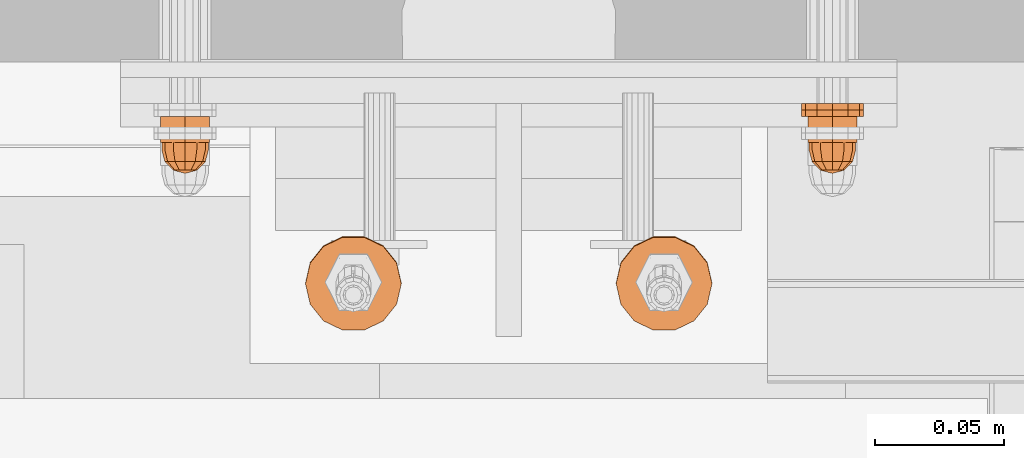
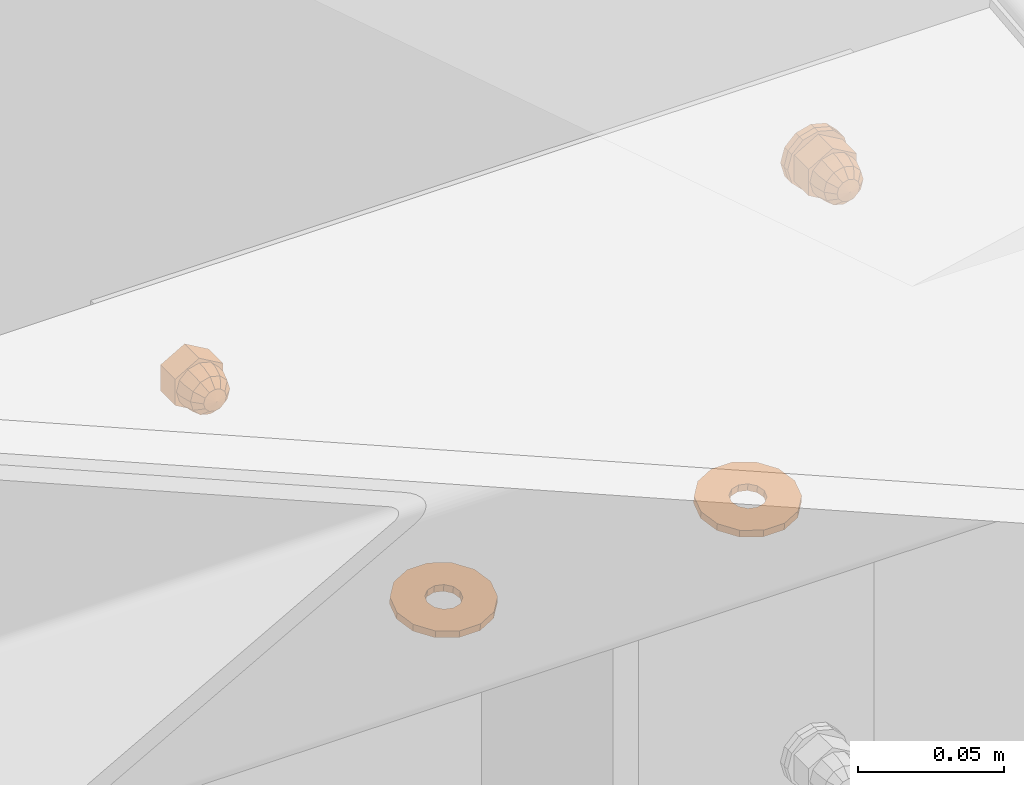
# One storey, part 150 of 162: 6 proxies.
"""IFC2X3 building model written with IfcOpenShell, lengths in millimetres."""

from ifc_helpers import new_model, entity, si_unit, converted_unit, origin_with_axes, place, context, project, spatial, faceted_brep, material, element, save


model = new_model("IFC2X3")

# Units and contexts
model_context = context("Model", 3, precision=1e-09, world=origin_with_axes())
ifc_project = project(units=[si_unit("LENGTHUNIT", "METRE", prefix="MILLI"), si_unit("AREAUNIT", "SQUARE_METRE"), si_unit("VOLUMEUNIT", "CUBIC_METRE"), converted_unit("PLANEANGLEUNIT", "DEGREE", entity("IfcPlaneAngleMeasure", 0.01745329), si_unit("PLANEANGLEUNIT", "RADIAN"), dimensions=[0, 0, 0, 0, 0, 0, 0])], contexts=[model_context])

# Site, building, storey
site_placement = place(None, origin_with_axes())
site = spatial("IfcSite", under=ifc_project, at=site_placement, Name="Hermannstra?e 1a, 60318 Frankfurt", CompositionType="ELEMENT")
building_placement = place(site_placement, origin_with_axes())
building = spatial("IfcBuilding", under=site, at=building_placement, Name="Struktur 1", CompositionType="ELEMENT")
storey_placement = place(building_placement, origin_with_axes())
storey = spatial("IfcBuildingStorey", under=building, at=storey_placement, Name="Default Storey", CompositionType="ELEMENT", Elevation=0.0)

# Proxies
ifc_material_1 = material(Name="A4")
proxy_1_placement = place(None, origin_with_axes())
element("IfcBuildingElementProxy", 1, at=proxy_1_placement, inside=storey, material=ifc_material_1, ObjectType="-", context=model_context, shape_type="Brep", body=[
    faceted_brep([(5442.309364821, 2704.609373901, 17466.999), (5442.309364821, 2714.609373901, 17466.999), (5443.113212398, 2714.609373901, 17469.999), (5443.113212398, 2704.609373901, 17469.999), (5445.309364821, 2714.609373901, 17472.195152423), (5445.309364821, 2704.609373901, 17472.195152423), (5443.113212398, 2704.609373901, 17463.999), (5443.113212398, 2714.609373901, 17463.999), (5438.82949554, 2714.609373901, 17461.525794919), (5438.82949554, 2714.609373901, 17472.472205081), (5448.309364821, 2714.609373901, 17477.945410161), (5457.789234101, 2714.609373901, 17472.472205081), (5457.789234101, 2714.609373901, 17461.525794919), (5448.309364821, 2714.609373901, 17456.052589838), (5445.309364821, 2714.609373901, 17461.802847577), (5448.309364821, 2714.609373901, 17460.999), (5451.309364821, 2714.609373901, 17461.802847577), (5453.505517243, 2714.609373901, 17463.999), (5454.309364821, 2714.609373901, 17466.999), (5453.505517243, 2714.609373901, 17469.999), (5451.309364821, 2714.609373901, 17472.195152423), (5448.309364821, 2714.609373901, 17472.999), (5438.82949554, 2704.609373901, 17461.525794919), (5448.309364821, 2704.609373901, 17456.052589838), (5457.789234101, 2704.609373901, 17461.525794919), (5457.789234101, 2704.609373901, 17472.472205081), (5448.309364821, 2704.609373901, 17477.945410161), (5438.82949554, 2704.609373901, 17472.472205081), (5445.309364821, 2704.609373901, 17461.802847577), (5448.309364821, 2704.609373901, 17472.999), (5448.309364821, 2704.609373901, 17460.999), (5451.309364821, 2704.609373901, 17472.195152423), (5451.309364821, 2704.609373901, 17461.802847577), (5453.505517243, 2704.609373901, 17469.999), (5453.505517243, 2704.609373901, 17463.999), (5454.309364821, 2704.609373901, 17466.999)], [[[0, 1, 2, 3]], [[3, 2, 4, 5]], [[1, 0, 6, 7]], [[8, 9, 10, 11, 12, 13], [7, 14, 15, 16, 17, 18, 19, 20, 21, 4, 2, 1]], [[22, 23, 24, 25, 26, 27]], [[7, 6, 28, 14]], [[22, 27, 9, 8]], [[5, 4, 21, 29]], [[10, 9, 27, 26]], [[14, 28, 30, 15]], [[23, 22, 8, 13]], [[29, 21, 20, 31]], [[11, 10, 26, 25]], [[15, 30, 32, 16]], [[24, 23, 13, 12]], [[31, 20, 19, 33]], [[25, 24, 12, 11]], [[16, 32, 34, 17]], [[33, 19, 18, 35]], [[17, 34, 35, 18]]]),
    faceted_brep([(5448.309364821, 2701.609373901, 17457.999), (5448.309364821, 2704.609373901, 17457.999), (5452.809364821, 2704.609373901, 17459.204771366), (5452.809364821, 2701.609373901, 17459.204771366), (5443.809364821, 2701.609373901, 17459.204771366), (5443.809364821, 2704.609373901, 17459.204771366), (5443.809364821, 2701.609373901, 17474.793228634), (5440.515136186, 2701.609373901, 17471.499), (5439.309364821, 2701.609373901, 17466.999), (5440.515136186, 2701.609373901, 17462.499), (5456.103593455, 2701.609373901, 17462.499), (5457.309364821, 2701.609373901, 17466.999), (5456.103593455, 2701.609373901, 17471.499), (5452.809364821, 2701.609373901, 17474.793228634), (5448.309364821, 2701.609373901, 17475.999), (5452.809364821, 2704.609373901, 17474.793228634), (5456.103593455, 2704.609373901, 17471.499), (5457.309364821, 2704.609373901, 17466.999), (5456.103593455, 2704.609373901, 17462.499), (5440.515136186, 2704.609373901, 17462.499), (5439.309364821, 2704.609373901, 17466.999), (5440.515136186, 2704.609373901, 17471.499), (5443.809364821, 2704.609373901, 17474.793228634), (5448.309364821, 2704.609373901, 17475.999)], [[[0, 1, 2, 3]], [[1, 0, 4, 5]], [[6, 7, 8, 9, 4, 0, 3, 10, 11, 12, 13, 14]], [[15, 16, 17, 18, 2, 1, 5, 19, 20, 21, 22, 23]], [[3, 2, 18, 10]], [[5, 4, 9, 19]], [[10, 18, 17, 11]], [[19, 9, 8, 20]], [[22, 6, 14, 23]], [[7, 21, 20, 8]], [[6, 22, 21, 7]], [[11, 17, 16, 12]], [[23, 14, 13, 15]], [[12, 16, 15, 13]]]),
    faceted_brep([(5441.559364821, 2697.109373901, 17463.101885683), (5440.515136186, 2701.609373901, 17462.499), (5443.809364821, 2701.609373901, 17459.204771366), (5444.412250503, 2697.109373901, 17460.249), (5452.809364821, 2701.609373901, 17474.793228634), (5456.103593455, 2701.609373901, 17471.499), (5457.309364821, 2701.609373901, 17466.999), (5456.103593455, 2701.609373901, 17462.499), (5452.809364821, 2701.609373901, 17459.204771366), (5448.309364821, 2701.609373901, 17457.999), (5439.309364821, 2701.609373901, 17466.999), (5440.515136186, 2701.609373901, 17471.499), (5443.809364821, 2701.609373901, 17474.793228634), (5448.309364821, 2701.609373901, 17475.999), (5448.309364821, 2697.109373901, 17459.204771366), (5443.809364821, 2693.815145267, 17466.999), (5440.515136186, 2697.109373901, 17466.999), (5444.412250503, 2693.815145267, 17464.749), (5452.206479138, 2697.109373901, 17460.249), (5446.059364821, 2693.815145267, 17463.101885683), (5444.412250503, 2693.815145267, 17469.249), (5441.559364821, 2697.109373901, 17470.896114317), (5448.309364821, 2693.815145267, 17462.499), (5448.309364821, 2692.609373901, 17466.999), (5446.059364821, 2693.815145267, 17470.896114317), (5444.412250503, 2697.109373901, 17473.749), (5448.309364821, 2697.109373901, 17474.793228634), (5455.059364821, 2697.109373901, 17463.101885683), (5450.559364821, 2693.815145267, 17463.101885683), (5448.309364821, 2693.815145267, 17471.499), (5452.206479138, 2697.109373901, 17473.749), (5450.559364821, 2693.815145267, 17470.896114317), (5456.103593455, 2697.109373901, 17466.999), (5452.206479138, 2693.815145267, 17464.749), (5455.059364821, 2697.109373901, 17470.896114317), (5452.206479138, 2693.815145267, 17469.249), (5452.809364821, 2693.815145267, 17466.999)], [[[0, 1, 2, 3]], [[4, 5, 6, 7, 8, 9, 2, 1, 10, 11, 12, 13]], [[3, 2, 9, 14]], [[15, 16, 0, 17]], [[1, 0, 16, 10]], [[14, 9, 8, 18]], [[17, 0, 3, 19]], [[16, 15, 20, 21]], [[19, 3, 14, 22]], [[17, 23, 15]], [[24, 25, 21, 20]], [[15, 23, 20]], [[12, 25, 26, 13]], [[11, 21, 25, 12]], [[10, 16, 21, 11]], [[18, 8, 7, 27]], [[22, 14, 18, 28]], [[19, 23, 17]], [[29, 26, 25, 24]], [[20, 23, 24]], [[22, 23, 19]], [[13, 26, 30, 4]], [[26, 29, 31, 30]], [[24, 23, 29]], [[27, 7, 6, 32]], [[28, 18, 27, 33]], [[28, 23, 22]], [[29, 23, 31]], [[33, 23, 28]], [[4, 30, 34, 5]], [[30, 31, 35, 34]], [[31, 23, 35]], [[32, 6, 5, 34]], [[33, 27, 32, 36]], [[36, 23, 33]], [[35, 23, 36]], [[34, 35, 36, 32]]]),
])
proxy_2_placement = place(None, origin_with_axes())
element("IfcBuildingElementProxy", 2, at=proxy_2_placement, inside=storey, material=ifc_material_1, ObjectType="-", context=model_context, shape_type="Brep", body=[
    faceted_brep([(5692.309364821, 2704.609373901, 17466.999), (5692.309364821, 2714.609373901, 17466.999), (5693.113212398, 2714.609373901, 17469.999), (5693.113212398, 2704.609373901, 17469.999), (5695.309364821, 2714.609373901, 17472.195152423), (5695.309364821, 2704.609373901, 17472.195152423), (5693.113212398, 2704.609373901, 17463.999), (5693.113212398, 2714.609373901, 17463.999), (5688.82949554, 2714.609373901, 17461.525794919), (5688.82949554, 2714.609373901, 17472.472205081), (5698.309364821, 2714.609373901, 17477.945410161), (5707.789234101, 2714.609373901, 17472.472205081), (5707.789234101, 2714.609373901, 17461.525794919), (5698.309364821, 2714.609373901, 17456.052589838), (5695.309364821, 2714.609373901, 17461.802847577), (5698.309364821, 2714.609373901, 17460.999), (5701.309364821, 2714.609373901, 17461.802847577), (5703.505517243, 2714.609373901, 17463.999), (5704.309364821, 2714.609373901, 17466.999), (5703.505517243, 2714.609373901, 17469.999), (5701.309364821, 2714.609373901, 17472.195152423), (5698.309364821, 2714.609373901, 17472.999), (5688.82949554, 2704.609373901, 17461.525794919), (5698.309364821, 2704.609373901, 17456.052589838), (5707.789234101, 2704.609373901, 17461.525794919), (5707.789234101, 2704.609373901, 17472.472205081), (5698.309364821, 2704.609373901, 17477.945410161), (5688.82949554, 2704.609373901, 17472.472205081), (5695.309364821, 2704.609373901, 17461.802847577), (5698.309364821, 2704.609373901, 17472.999), (5698.309364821, 2704.609373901, 17460.999), (5701.309364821, 2704.609373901, 17472.195152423), (5701.309364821, 2704.609373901, 17461.802847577), (5703.505517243, 2704.609373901, 17469.999), (5703.505517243, 2704.609373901, 17463.999), (5704.309364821, 2704.609373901, 17466.999)], [[[0, 1, 2, 3]], [[3, 2, 4, 5]], [[1, 0, 6, 7]], [[8, 9, 10, 11, 12, 13], [7, 14, 15, 16, 17, 18, 19, 20, 21, 4, 2, 1]], [[22, 23, 24, 25, 26, 27]], [[7, 6, 28, 14]], [[22, 27, 9, 8]], [[5, 4, 21, 29]], [[10, 9, 27, 26]], [[14, 28, 30, 15]], [[23, 22, 8, 13]], [[29, 21, 20, 31]], [[11, 10, 26, 25]], [[15, 30, 32, 16]], [[24, 23, 13, 12]], [[31, 20, 19, 33]], [[25, 24, 12, 11]], [[16, 32, 34, 17]], [[33, 19, 18, 35]], [[17, 34, 35, 18]]]),
    faceted_brep([(5698.309364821, 2701.609373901, 17457.999), (5698.309364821, 2704.609373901, 17457.999), (5702.809364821, 2704.609373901, 17459.204771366), (5702.809364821, 2701.609373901, 17459.204771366), (5693.809364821, 2701.609373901, 17459.204771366), (5693.809364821, 2704.609373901, 17459.204771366), (5693.809364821, 2701.609373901, 17474.793228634), (5690.515136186, 2701.609373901, 17471.499), (5689.309364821, 2701.609373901, 17466.999), (5690.515136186, 2701.609373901, 17462.499), (5706.103593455, 2701.609373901, 17462.499), (5707.309364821, 2701.609373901, 17466.999), (5706.103593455, 2701.609373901, 17471.499), (5702.809364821, 2701.609373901, 17474.793228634), (5698.309364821, 2701.609373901, 17475.999), (5702.809364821, 2704.609373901, 17474.793228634), (5706.103593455, 2704.609373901, 17471.499), (5707.309364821, 2704.609373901, 17466.999), (5706.103593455, 2704.609373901, 17462.499), (5690.515136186, 2704.609373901, 17462.499), (5689.309364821, 2704.609373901, 17466.999), (5690.515136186, 2704.609373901, 17471.499), (5693.809364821, 2704.609373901, 17474.793228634), (5698.309364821, 2704.609373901, 17475.999)], [[[0, 1, 2, 3]], [[1, 0, 4, 5]], [[6, 7, 8, 9, 4, 0, 3, 10, 11, 12, 13, 14]], [[15, 16, 17, 18, 2, 1, 5, 19, 20, 21, 22, 23]], [[3, 2, 18, 10]], [[5, 4, 9, 19]], [[10, 18, 17, 11]], [[19, 9, 8, 20]], [[22, 6, 14, 23]], [[7, 21, 20, 8]], [[6, 22, 21, 7]], [[11, 17, 16, 12]], [[23, 14, 13, 15]], [[12, 16, 15, 13]]]),
    faceted_brep([(5691.559364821, 2697.109373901, 17463.101885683), (5690.515136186, 2701.609373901, 17462.499), (5693.809364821, 2701.609373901, 17459.204771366), (5694.412250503, 2697.109373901, 17460.249), (5702.809364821, 2701.609373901, 17474.793228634), (5706.103593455, 2701.609373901, 17471.499), (5707.309364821, 2701.609373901, 17466.999), (5706.103593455, 2701.609373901, 17462.499), (5702.809364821, 2701.609373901, 17459.204771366), (5698.309364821, 2701.609373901, 17457.999), (5689.309364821, 2701.609373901, 17466.999), (5690.515136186, 2701.609373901, 17471.499), (5693.809364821, 2701.609373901, 17474.793228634), (5698.309364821, 2701.609373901, 17475.999), (5698.309364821, 2697.109373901, 17459.204771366), (5693.809364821, 2693.815145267, 17466.999), (5690.515136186, 2697.109373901, 17466.999), (5694.412250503, 2693.815145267, 17464.749), (5702.206479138, 2697.109373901, 17460.249), (5696.059364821, 2693.815145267, 17463.101885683), (5694.412250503, 2693.815145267, 17469.249), (5691.559364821, 2697.109373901, 17470.896114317), (5698.309364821, 2693.815145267, 17462.499), (5698.309364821, 2692.609373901, 17466.999), (5696.059364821, 2693.815145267, 17470.896114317), (5694.412250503, 2697.109373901, 17473.749), (5698.309364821, 2697.109373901, 17474.793228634), (5705.059364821, 2697.109373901, 17463.101885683), (5700.559364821, 2693.815145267, 17463.101885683), (5698.309364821, 2693.815145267, 17471.499), (5702.206479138, 2697.109373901, 17473.749), (5700.559364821, 2693.815145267, 17470.896114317), (5706.103593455, 2697.109373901, 17466.999), (5702.206479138, 2693.815145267, 17464.749), (5705.059364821, 2697.109373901, 17470.896114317), (5702.206479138, 2693.815145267, 17469.249), (5702.809364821, 2693.815145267, 17466.999)], [[[0, 1, 2, 3]], [[4, 5, 6, 7, 8, 9, 2, 1, 10, 11, 12, 13]], [[3, 2, 9, 14]], [[15, 16, 0, 17]], [[1, 0, 16, 10]], [[14, 9, 8, 18]], [[17, 0, 3, 19]], [[16, 15, 20, 21]], [[19, 3, 14, 22]], [[17, 23, 15]], [[24, 25, 21, 20]], [[15, 23, 20]], [[12, 25, 26, 13]], [[11, 21, 25, 12]], [[10, 16, 21, 11]], [[18, 8, 7, 27]], [[22, 14, 18, 28]], [[19, 23, 17]], [[29, 26, 25, 24]], [[20, 23, 24]], [[22, 23, 19]], [[13, 26, 30, 4]], [[26, 29, 31, 30]], [[24, 23, 29]], [[27, 7, 6, 32]], [[28, 18, 27, 33]], [[28, 23, 22]], [[29, 23, 31]], [[33, 23, 28]], [[4, 30, 34, 5]], [[30, 31, 35, 34]], [[31, 23, 35]], [[32, 6, 5, 34]], [[33, 27, 32, 36]], [[36, 23, 33]], [[35, 23, 36]], [[34, 35, 36, 32]]]),
])
ifc_material_2 = material(Name="Kunststoff")
proxy_3_placement = place(None, origin_with_axes())
element("IfcBuildingElementProxy", 3, at=proxy_3_placement, inside=storey, material=ifc_material_2, ObjectType="-", context=model_context, shape_type="Brep", body=[
    faceted_brep([(5687.917059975, 2719.609373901, 17460.999), (5687.917059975, 2717.109373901, 17460.999), (5686.309364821, 2717.109373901, 17466.999), (5686.309364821, 2719.609373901, 17466.999), (5692.680199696, 2719.609373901, 17463.749), (5695.059364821, 2719.609373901, 17461.369834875), (5698.309364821, 2719.609373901, 17460.499), (5701.559364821, 2719.609373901, 17461.369834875), (5703.938529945, 2719.609373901, 17463.749), (5704.809364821, 2719.609373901, 17466.999), (5703.938529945, 2719.609373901, 17470.249), (5701.559364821, 2719.609373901, 17472.628165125), (5698.309364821, 2719.609373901, 17473.499), (5695.059364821, 2719.609373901, 17472.628165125), (5692.680199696, 2719.609373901, 17470.249), (5691.809364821, 2719.609373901, 17466.999), (5691.809364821, 2717.109373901, 17466.999), (5692.680199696, 2717.109373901, 17463.749), (5692.309364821, 2717.109373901, 17456.606695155), (5698.309364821, 2717.109373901, 17454.999), (5704.309364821, 2717.109373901, 17456.606695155), (5708.701669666, 2717.109373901, 17460.999), (5710.309364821, 2717.109373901, 17466.999), (5708.701669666, 2717.109373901, 17472.999), (5704.309364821, 2717.109373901, 17477.391304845), (5698.309364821, 2717.109373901, 17478.999), (5692.309364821, 2717.109373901, 17477.391304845), (5687.917059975, 2717.109373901, 17472.999), (5692.309364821, 2719.609373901, 17456.606695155), (5692.680199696, 2717.109373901, 17470.249), (5687.917059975, 2719.609373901, 17472.999), (5695.059364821, 2717.109373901, 17461.369834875), (5698.309364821, 2719.609373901, 17454.999), (5695.059364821, 2717.109373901, 17472.628165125), (5692.309364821, 2719.609373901, 17477.391304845), (5698.309364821, 2717.109373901, 17460.499), (5698.309364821, 2717.109373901, 17473.499), (5704.309364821, 2719.609373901, 17456.606695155), (5701.559364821, 2717.109373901, 17461.369834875), (5698.309364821, 2719.609373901, 17478.999), (5701.559364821, 2717.109373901, 17472.628165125), (5708.701669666, 2719.609373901, 17460.999), (5703.938529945, 2717.109373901, 17463.749), (5704.309364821, 2719.609373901, 17477.391304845), (5703.938529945, 2717.109373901, 17470.249), (5710.309364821, 2719.609373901, 17466.999), (5704.809364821, 2717.109373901, 17466.999), (5708.701669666, 2719.609373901, 17472.999)], [[[0, 1, 2, 3]], [[4, 5, 6, 7, 8, 9, 10, 11, 12, 13, 14, 15]], [[15, 16, 17, 4]], [[1, 18, 19, 20, 21, 22, 23, 24, 25, 26, 27, 2]], [[1, 0, 28, 18]], [[16, 15, 14, 29]], [[3, 2, 27, 30]], [[4, 17, 31, 5]], [[18, 28, 32, 19]], [[29, 14, 13, 33]], [[30, 27, 26, 34]], [[5, 31, 35, 6]], [[33, 13, 12, 36]], [[19, 32, 37, 20]], [[6, 35, 38, 7]], [[34, 26, 25, 39]], [[36, 12, 11, 40]], [[20, 37, 41, 21]], [[7, 38, 42, 8]], [[39, 25, 24, 43]], [[40, 11, 10, 44]], [[21, 41, 45, 22]], [[8, 42, 46, 9]], [[43, 24, 23, 47]], [[44, 10, 9, 46]], [[22, 45, 47, 23]]]),
])
proxy_4_placement = place(None, origin_with_axes())
element("IfcBuildingElementProxy", 4, at=proxy_4_placement, inside=storey, material=ifc_material_1, ObjectType="-", context=model_context, shape_type="Brep", body=[
    faceted_brep([(5708.701669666, 2717.109373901, 17460.999), (5708.701669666, 2714.609373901, 17460.999), (5704.309364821, 2714.609373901, 17456.606695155), (5704.309364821, 2717.109373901, 17456.606695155), (5710.309364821, 2714.609373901, 17466.999), (5708.701669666, 2714.609373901, 17472.999), (5704.309364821, 2714.609373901, 17477.391304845), (5698.309364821, 2714.609373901, 17478.999), (5692.309364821, 2714.609373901, 17477.391304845), (5687.917059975, 2714.609373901, 17472.999), (5686.309364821, 2714.609373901, 17466.999), (5687.917059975, 2714.609373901, 17460.999), (5692.309364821, 2714.609373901, 17456.606695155), (5698.309364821, 2714.609373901, 17454.999), (5698.309364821, 2714.609373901, 17460.499), (5695.059364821, 2714.609373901, 17461.369834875), (5692.680199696, 2714.609373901, 17463.749), (5691.809364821, 2714.609373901, 17466.999), (5692.680199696, 2714.609373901, 17470.249), (5695.059364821, 2714.609373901, 17472.628165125), (5698.309364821, 2714.609373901, 17473.499), (5701.559364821, 2714.609373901, 17472.628165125), (5703.938529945, 2714.609373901, 17470.249), (5704.809364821, 2714.609373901, 17466.999), (5703.938529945, 2714.609373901, 17463.749), (5701.559364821, 2714.609373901, 17461.369834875), (5703.938529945, 2717.109373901, 17463.749), (5704.809364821, 2717.109373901, 17466.999), (5703.938529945, 2717.109373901, 17470.249), (5701.559364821, 2717.109373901, 17472.628165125), (5698.309364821, 2717.109373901, 17473.499), (5695.059364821, 2717.109373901, 17472.628165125), (5692.680199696, 2717.109373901, 17470.249), (5691.809364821, 2717.109373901, 17466.999), (5692.680199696, 2717.109373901, 17463.749), (5695.059364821, 2717.109373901, 17461.369834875), (5698.309364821, 2717.109373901, 17460.499), (5701.559364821, 2717.109373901, 17461.369834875), (5710.309364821, 2717.109373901, 17466.999), (5698.309364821, 2717.109373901, 17454.999), (5708.701669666, 2717.109373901, 17472.999), (5692.309364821, 2717.109373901, 17456.606695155), (5704.309364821, 2717.109373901, 17477.391304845), (5687.917059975, 2717.109373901, 17460.999), (5698.309364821, 2717.109373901, 17478.999), (5686.309364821, 2717.109373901, 17466.999), (5692.309364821, 2717.109373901, 17477.391304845), (5687.917059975, 2717.109373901, 17472.999)], [[[0, 1, 2, 3]], [[2, 1, 4, 5, 6, 7, 8, 9, 10, 11, 12, 13], [14, 15, 16, 17, 18, 19, 20, 21, 22, 23, 24, 25]], [[26, 27, 28, 29, 30, 31, 32, 33, 34, 35, 36, 37]], [[24, 26, 37, 25]], [[1, 0, 38, 4]], [[26, 24, 23, 27]], [[25, 37, 36, 14]], [[3, 2, 13, 39]], [[4, 38, 40, 5]], [[27, 23, 22, 28]], [[14, 36, 35, 15]], [[39, 13, 12, 41]], [[5, 40, 42, 6]], [[28, 22, 21, 29]], [[15, 35, 34, 16]], [[41, 12, 11, 43]], [[33, 17, 16, 34]], [[6, 42, 44, 7]], [[29, 21, 20, 30]], [[32, 18, 17, 33]], [[43, 11, 10, 45]], [[19, 31, 30, 20]], [[18, 32, 31, 19]], [[7, 44, 46, 8]], [[45, 10, 9, 47]], [[8, 46, 47, 9]]]),
])
ifc_material_3 = material(Name="S235JR")
proxy_5_placement = place(None, origin_with_axes())
element("IfcBuildingElementProxy", 5, at=proxy_5_placement, inside=storey, material=ifc_material_3, ObjectType="-", context=model_context, shape_type="Brep", body=[
    faceted_brep([(5524.843926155, 2635.608193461, 17387.254218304), (5524.843926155, 2635.921778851, 17384.270652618), (5529.977288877, 2642.323549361, 17384.943505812), (5529.977288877, 2642.009963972, 17387.927071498), (5517.426002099, 2632.369064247, 17383.897247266), (5509.192727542, 2632.369064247, 17383.897247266), (5501.774803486, 2635.921778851, 17384.270652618), (5496.641440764, 2642.323549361, 17384.943505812), (5494.809364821, 2650.306426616, 17385.782540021), (5496.641440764, 2658.28930387, 17386.62157423), (5501.774803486, 2664.69107438, 17387.294427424), (5509.192727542, 2668.243788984, 17387.667832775), (5517.426002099, 2668.243788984, 17387.667832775), (5524.843926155, 2664.69107438, 17387.294427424), (5529.977288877, 2658.28930387, 17386.62157423), (5531.809364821, 2650.306426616, 17385.782540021), (5516.559364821, 2644.708098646, 17385.194132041), (5518.938529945, 2647.074230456, 17385.442822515), (5519.809364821, 2650.306426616, 17385.782540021), (5518.938529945, 2653.538622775, 17386.122257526), (5516.559364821, 2655.904754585, 17386.370948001), (5513.309364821, 2656.770818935, 17386.461975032), (5510.059364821, 2655.904754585, 17386.370948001), (5507.680199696, 2653.538622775, 17386.122257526), (5506.809364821, 2650.306426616, 17385.782540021), (5507.680199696, 2647.074230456, 17385.442822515), (5510.059364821, 2644.708098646, 17385.194132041), (5513.309364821, 2643.842034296, 17385.10310501), (5531.809364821, 2649.992841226, 17388.766105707), (5529.977288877, 2657.97571848, 17389.605139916), (5524.843926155, 2664.37748899, 17390.27799311), (5517.426002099, 2667.930203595, 17390.651398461), (5509.192727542, 2667.930203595, 17390.651398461), (5501.774803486, 2664.37748899, 17390.27799311), (5496.641440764, 2657.97571848, 17389.605139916), (5494.809364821, 2649.992841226, 17388.766105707), (5496.641440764, 2642.009963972, 17387.927071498), (5501.774803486, 2635.608193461, 17387.254218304), (5509.192727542, 2632.055478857, 17386.880812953), (5517.426002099, 2632.055478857, 17386.880812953), (5519.809364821, 2649.992841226, 17388.766105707), (5518.938529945, 2646.760645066, 17388.426388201), (5516.559364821, 2644.394513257, 17388.177697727), (5513.309364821, 2643.528448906, 17388.086670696), (5510.059364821, 2644.394513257, 17388.177697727), (5507.680199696, 2646.760645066, 17388.426388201), (5506.809364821, 2649.992841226, 17388.766105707), (5507.680199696, 2653.225037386, 17389.105823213), (5510.059364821, 2655.591169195, 17389.354513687), (5513.309364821, 2656.457233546, 17389.445540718), (5516.559364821, 2655.591169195, 17389.354513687), (5518.938529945, 2653.225037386, 17389.105823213)], [[[0, 1, 2, 3]], [[4, 5, 6, 7, 8, 9, 10, 11, 12, 13, 14, 15, 2, 1], [16, 17, 18, 19, 20, 21, 22, 23, 24, 25, 26, 27]], [[28, 29, 30, 31, 32, 33, 34, 35, 36, 37, 38, 39, 0, 3], [40, 41, 42, 43, 44, 45, 46, 47, 48, 49, 50, 51]], [[1, 0, 39, 4]], [[41, 17, 16, 42]], [[17, 41, 40, 18]], [[3, 2, 15, 28]], [[4, 39, 38, 5]], [[42, 16, 27, 43]], [[18, 40, 51, 19]], [[28, 15, 14, 29]], [[5, 38, 37, 6]], [[43, 27, 26, 44]], [[19, 51, 50, 20]], [[29, 14, 13, 30]], [[6, 37, 36, 7]], [[44, 26, 25, 45]], [[20, 50, 49, 21]], [[30, 13, 12, 31]], [[7, 36, 35, 8]], [[45, 25, 24, 46]], [[48, 22, 21, 49]], [[31, 12, 11, 32]], [[23, 47, 46, 24]], [[22, 48, 47, 23]], [[8, 35, 34, 9]], [[32, 11, 10, 33]], [[9, 34, 33, 10]]]),
])
proxy_6_placement = place(None, origin_with_axes())
element("IfcBuildingElementProxy", 6, at=proxy_6_placement, inside=storey, material=ifc_material_3, ObjectType="-", context=model_context, shape_type="Brep", body=[
    faceted_brep([(5644.843926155, 2635.608193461, 17387.254218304), (5644.843926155, 2635.921778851, 17384.270652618), (5649.977288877, 2642.323549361, 17384.943505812), (5649.977288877, 2642.009963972, 17387.927071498), (5637.426002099, 2632.369064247, 17383.897247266), (5629.192727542, 2632.369064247, 17383.897247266), (5621.774803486, 2635.921778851, 17384.270652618), (5616.641440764, 2642.323549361, 17384.943505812), (5614.809364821, 2650.306426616, 17385.782540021), (5616.641440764, 2658.28930387, 17386.62157423), (5621.774803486, 2664.69107438, 17387.294427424), (5629.192727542, 2668.243788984, 17387.667832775), (5637.426002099, 2668.243788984, 17387.667832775), (5644.843926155, 2664.69107438, 17387.294427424), (5649.977288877, 2658.28930387, 17386.62157423), (5651.809364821, 2650.306426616, 17385.782540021), (5636.559364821, 2644.708098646, 17385.194132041), (5638.938529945, 2647.074230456, 17385.442822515), (5639.809364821, 2650.306426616, 17385.782540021), (5638.938529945, 2653.538622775, 17386.122257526), (5636.559364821, 2655.904754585, 17386.370948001), (5633.309364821, 2656.770818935, 17386.461975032), (5630.059364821, 2655.904754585, 17386.370948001), (5627.680199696, 2653.538622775, 17386.122257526), (5626.809364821, 2650.306426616, 17385.782540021), (5627.680199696, 2647.074230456, 17385.442822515), (5630.059364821, 2644.708098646, 17385.194132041), (5633.309364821, 2643.842034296, 17385.10310501), (5651.809364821, 2649.992841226, 17388.766105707), (5649.977288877, 2657.97571848, 17389.605139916), (5644.843926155, 2664.37748899, 17390.27799311), (5637.426002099, 2667.930203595, 17390.651398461), (5629.192727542, 2667.930203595, 17390.651398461), (5621.774803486, 2664.37748899, 17390.27799311), (5616.641440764, 2657.97571848, 17389.605139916), (5614.809364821, 2649.992841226, 17388.766105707), (5616.641440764, 2642.009963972, 17387.927071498), (5621.774803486, 2635.608193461, 17387.254218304), (5629.192727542, 2632.055478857, 17386.880812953), (5637.426002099, 2632.055478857, 17386.880812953), (5639.809364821, 2649.992841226, 17388.766105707), (5638.938529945, 2646.760645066, 17388.426388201), (5636.559364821, 2644.394513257, 17388.177697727), (5633.309364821, 2643.528448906, 17388.086670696), (5630.059364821, 2644.394513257, 17388.177697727), (5627.680199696, 2646.760645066, 17388.426388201), (5626.809364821, 2649.992841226, 17388.766105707), (5627.680199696, 2653.225037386, 17389.105823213), (5630.059364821, 2655.591169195, 17389.354513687), (5633.309364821, 2656.457233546, 17389.445540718), (5636.559364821, 2655.591169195, 17389.354513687), (5638.938529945, 2653.225037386, 17389.105823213)], [[[0, 1, 2, 3]], [[4, 5, 6, 7, 8, 9, 10, 11, 12, 13, 14, 15, 2, 1], [16, 17, 18, 19, 20, 21, 22, 23, 24, 25, 26, 27]], [[28, 29, 30, 31, 32, 33, 34, 35, 36, 37, 38, 39, 0, 3], [40, 41, 42, 43, 44, 45, 46, 47, 48, 49, 50, 51]], [[1, 0, 39, 4]], [[41, 17, 16, 42]], [[17, 41, 40, 18]], [[3, 2, 15, 28]], [[4, 39, 38, 5]], [[42, 16, 27, 43]], [[18, 40, 51, 19]], [[28, 15, 14, 29]], [[5, 38, 37, 6]], [[43, 27, 26, 44]], [[19, 51, 50, 20]], [[29, 14, 13, 30]], [[6, 37, 36, 7]], [[44, 26, 25, 45]], [[20, 50, 49, 21]], [[30, 13, 12, 31]], [[7, 36, 35, 8]], [[45, 25, 24, 46]], [[48, 22, 21, 49]], [[31, 12, 11, 32]], [[23, 47, 46, 24]], [[22, 48, 47, 23]], [[8, 35, 34, 9]], [[32, 11, 10, 33]], [[9, 34, 33, 10]]]),
])

save(model, "model.ifc")
